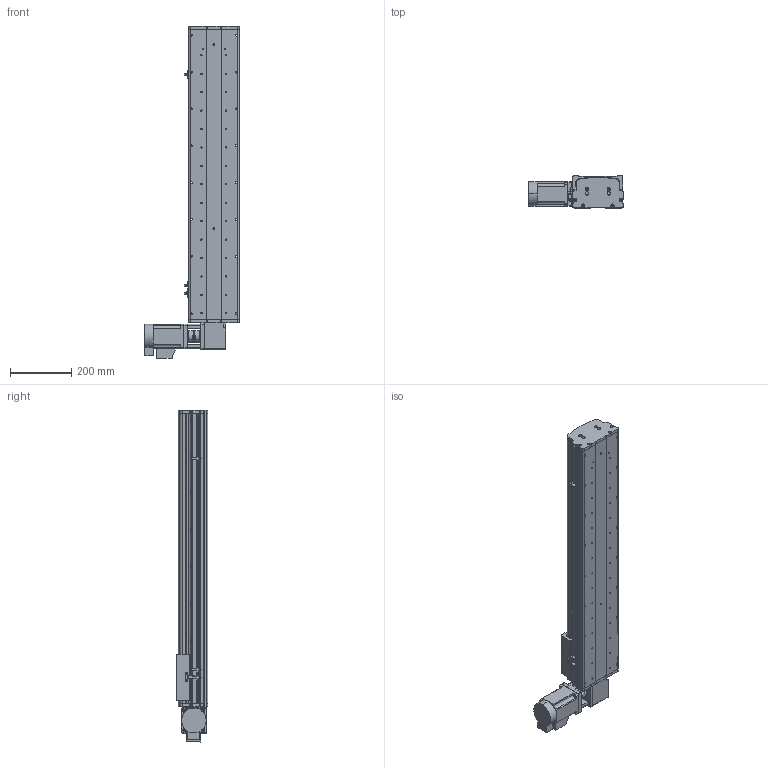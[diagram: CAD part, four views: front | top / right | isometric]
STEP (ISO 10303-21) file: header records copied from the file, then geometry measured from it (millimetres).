
FILE_DESCRIPTION (( 'STEP AP214' ), '1' );
FILE_NAME ('KSD165B-S700-MRT-CM.STEP', '2017-10-17T01:22:01', ( '微软用户' ), ( '微软中国' ), 'SwSTEP 2.0', 'SolidWorks 2014', '' );
FILE_SCHEMA (( 'AUTOMOTIVE_DESIGN' ));
Length unit declared in the file: millimetre
Products named in the file (16): KSD165模组-同步带防尘盖1-700行程-最新版; KSD165模组同步带底板-700行程-最新; 拸秶雄ん750W侜督萇儂; 165宽安装板同步带带电机座750W; C39ㄜ1419WP; U倰嫖萇假蚾璃; U倰嫖萇EEㄜSX672; 覜茼え68遵圉猾敕; KSD165模组-同步带-防撞垫2; KSD165模组同步带-防撞垫1; KSD165耀郪-ヶ傷啣1-肮祭湍; KSD165模组-后端板1-同步带; 130宽马达安装板1-带电机座750W（1）; KSD165模组-同步带滑动座-最新版; KSD165B-S700-MRT-CM; 165宽马达安装板同步带左-改
Assembly tree (19 placements, depth 2):
  KSD165B-S700-MRT-CM
    KSD165模组-同步带滑动座-最新版
    130宽马达安装板1-带电机座750W（1）
    KSD165模组-后端板1-同步带
    KSD165耀郪-ヶ傷啣1-肮祭湍
    KSD165模组同步带-防撞垫1
    KSD165模组-同步带-防撞垫2
    覜茼え68遵圉猾敕
    U倰嫖萇EEㄜSX672  x3
    U倰嫖萇假蚾璃  x3
    C39ㄜ1419WP
    165宽安装板同步带带电机座750W
    拸秶雄ん750W侜督萇儂
    KSD165模组同步带底板-700行程-最新
    KSD165模组-同步带防尘盖1-700行程-最新版
    165宽马达安装板同步带左-改
Bounding box: 307.5 x 104 x 1081.06 mm (x, y, z)
Volume: 6534067.1 mm3; surface area: 1462191 mm2
Topology: 20 solids, 21 shells, 1468 faces, 4074 edges, 2637 vertices
Faces by surface type: cylinder 797, plane 577, cone 94
Entity records: 46427 total; most frequent: CARTESIAN_POINT 9715, DIRECTION 7232, ORIENTED_EDGE 6800, EDGE_CURVE 3400, AXIS2_PLACEMENT_3D 2746, VERTEX_POINT 2229, LINE 1740, VECTOR 1740
